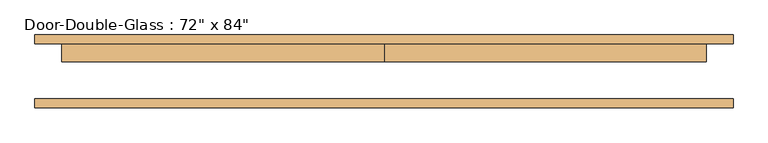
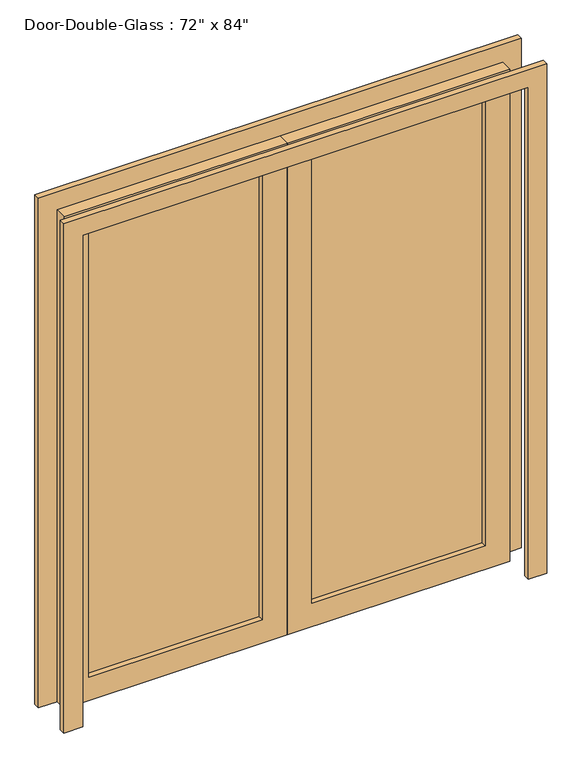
"""IFC4 building model written with IfcOpenShell, lengths in millimetres: door geometry."""

from ifc_helpers import new_model, si_unit, frame, origin, place, context, project, spatial, polyline, outline, extrude, source, transform, mapped, element, save


def door_cb31edf2(model_context):
    return source(origin(), model_context, "Body", "SweptSolid", [
        extrude(outline(polyline([(2133.6, -914.4), (0.0, -914.4), (0.0, 0.0), (2133.6, 0.0), (2133.6, -914.4)]), holes=[polyline([(2032.0, -812.8), (2032.0, -101.6), (101.6, -101.6), (101.6, -812.8), (2032.0, -812.8)])]), frame((0.0, 29.36875, 0.0), z_axis=(0.0, 1.0, 0.0), x_axis=(0.0, 0.0, 1.0)), (0.0, 0.0, 1.0), 50.8),
        extrude(outline(polyline([(2133.6, 914.4), (2133.6, 0.0), (0.0, 0.0), (0.0, 914.4), (2133.6, 914.4)]), holes=[polyline([(2032.0, 812.8), (101.6, 812.8), (101.6, 101.6), (2032.0, 101.6), (2032.0, 812.8)])]), frame((0.0, 29.36875, 0.0), z_axis=(0.0, 1.0, 0.0), x_axis=(0.0, 0.0, 1.0)), (0.0, 0.0, 1.0), 50.8),
        extrude(outline(polyline([(101.6, 57.94375), (812.8, 57.94375), (812.8, 51.59375), (101.6, 51.59375), (101.6, 57.94375)])), frame((0.0, 0.0, 101.6), z_axis=(0.0, 0.0, 1.0), x_axis=(1.0, 0.0, 0.0)), (0.0, 0.0, 1.0), 1930.4),
        extrude(outline(polyline([(-812.8, 57.94375), (-101.6, 57.94375), (-101.6, 51.59375), (-812.8, 51.59375), (-812.8, 57.94375)])), frame((0.0, 0.0, 101.6), z_axis=(0.0, 0.0, 1.0), x_axis=(1.0, 0.0, 0.0)), (0.0, 0.0, 1.0), 1930.4),
        extrude(outline(polyline([(0.0, 990.6), (2209.8, 990.6), (2209.8, -990.6), (0.0, -990.6), (0.0, -914.4), (2133.6, -914.4), (2133.6, 914.4), (0.0, 914.4), (0.0, 990.6)])), frame((0.0, 80.16875, 0.0), z_axis=(0.0, 1.0, 0.0), x_axis=(0.0, 0.0, 1.0)), (0.0, 0.0, 1.0), 25.4),
        extrude(outline(polyline([(0.0, 990.6), (2209.8, 990.6), (2209.8, -990.6), (0.0, -990.6), (0.0, -914.4), (2133.6, -914.4), (2133.6, 914.4), (0.0, 914.4), (0.0, 990.6)])), frame((0.0, -100.80625, 0.0), z_axis=(0.0, 1.0, 0.0), x_axis=(0.0, 0.0, 1.0)), (0.0, 0.0, 1.0), 25.4),
    ])


if __name__ == "__main__":
    model = new_model("IFC4")
    model_context = context("Model", 3, world=origin())
    ifc_project = project(units=[si_unit("LENGTHUNIT", "METRE", prefix="MILLI")], contexts=[model_context])
    site = spatial("IfcSite", under=ifc_project)
    building = spatial("IfcBuilding", under=site)
    placement = place(None, origin())
    door_shape = door_cb31edf2(model_context)
    element("IfcDoor", 1, ObjectType="Door-Double-Glass : 72\" x 84\"", at=placement, inside=building, context=model_context, shape_type="MappedRepresentation", body=[
        mapped(door_shape, transform((0.0, 0.0, 0.0), x_axis=(1.0, 0.0, 0.0), y_axis=(0.0, 1.0, 0.0), z_axis=(0.0, 0.0, 1.0))),
    ])
    save(model, "model.ifc")
